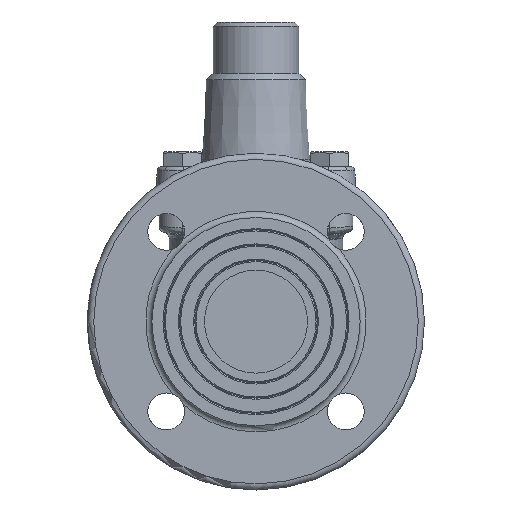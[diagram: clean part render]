
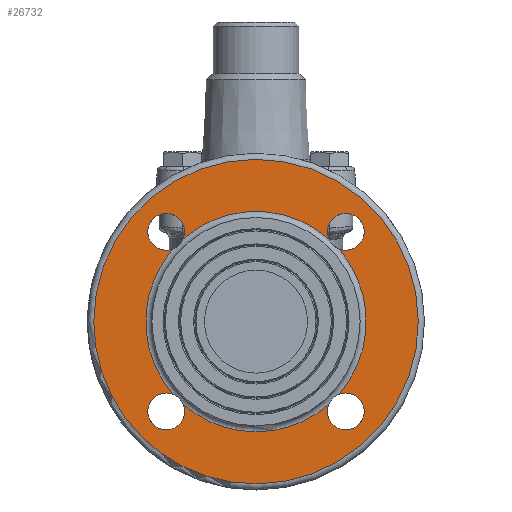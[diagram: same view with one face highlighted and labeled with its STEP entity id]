
A CAD part, left-side view. The second image highlights one B-rep face of the part: STEP entity #26732.
In plain terms, the highlighted planar face has unit normal (-1, 0, 0).
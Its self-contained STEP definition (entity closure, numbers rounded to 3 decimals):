
#14297=CARTESIAN_POINT('',(-112.,-0.,-54.));
#14298=VERTEX_POINT('',#14297);
#14309=CARTESIAN_POINT('',(-112.,-35.618,-40.588));
#14310=VERTEX_POINT('',#14309);
#14311=CARTESIAN_POINT('',(-112.,0.,0.));
#14312=DIRECTION('',(1.,0.,0.));
#14313=DIRECTION('',(0.,1.,-0.));
#14314=AXIS2_PLACEMENT_3D('',#14311,#14312,#14313);
#14315=CIRCLE('',#14314,54.);
#14316=EDGE_CURVE('',#14310,#14298,#14315,.T.);
#14318=CARTESIAN_POINT('',(-112.,-40.588,-35.618));
#14319=VERTEX_POINT('',#14318);
#14342=CARTESIAN_POINT('',(-112.,-40.588,35.618));
#14343=VERTEX_POINT('',#14342);
#14344=CARTESIAN_POINT('',(-112.,0.,0.));
#14345=DIRECTION('',(1.,0.,0.));
#14346=DIRECTION('',(0.,1.,-0.));
#14347=AXIS2_PLACEMENT_3D('',#14344,#14345,#14346);
#14348=CIRCLE('',#14347,54.);
#14349=EDGE_CURVE('',#14343,#14319,#14348,.T.);
#14351=CARTESIAN_POINT('',(-112.,-35.618,40.588));
#14352=VERTEX_POINT('',#14351);
#14375=CARTESIAN_POINT('',(-112.,35.618,40.588));
#14376=VERTEX_POINT('',#14375);
#14377=CARTESIAN_POINT('',(-112.,0.,0.));
#14378=DIRECTION('',(1.,0.,0.));
#14379=DIRECTION('',(0.,1.,-0.));
#14380=AXIS2_PLACEMENT_3D('',#14377,#14378,#14379);
#14381=CIRCLE('',#14380,54.);
#14382=EDGE_CURVE('',#14376,#14352,#14381,.T.);
#14384=CARTESIAN_POINT('',(-112.,40.588,35.618));
#14385=VERTEX_POINT('',#14384);
#14408=CARTESIAN_POINT('',(-112.,40.588,-35.618));
#14409=VERTEX_POINT('',#14408);
#14410=CARTESIAN_POINT('',(-112.,0.,0.));
#14411=DIRECTION('',(-1.,-0.,-0.));
#14412=DIRECTION('',(0.,1.,-0.));
#14413=AXIS2_PLACEMENT_3D('',#14410,#14411,#14412);
#14414=CIRCLE('',#14413,54.);
#14415=EDGE_CURVE('',#14385,#14409,#14414,.T.);
#14417=CARTESIAN_POINT('',(-112.,35.618,-40.588));
#14418=VERTEX_POINT('',#14417);
#14441=CARTESIAN_POINT('',(-112.,0.,0.));
#14442=DIRECTION('',(1.,0.,0.));
#14443=DIRECTION('',(0.,1.,-0.));
#14444=AXIS2_PLACEMENT_3D('',#14441,#14442,#14443);
#14445=CIRCLE('',#14444,54.);
#14446=EDGE_CURVE('',#14298,#14418,#14445,.T.);
#14458=CARTESIAN_POINT('',(-112.,-44.,-34.95));
#14459=VERTEX_POINT('',#14458);
#14483=CARTESIAN_POINT('',(-112.,-44.,-44.));
#14484=DIRECTION('',(1.,0.,0.));
#14485=DIRECTION('',(0.,1.,-0.));
#14486=AXIS2_PLACEMENT_3D('',#14483,#14484,#14485);
#14487=CIRCLE('',#14486,9.05);
#14488=EDGE_CURVE('',#14319,#14459,#14487,.T.);
#14491=CARTESIAN_POINT('',(-112.,-44.,-44.));
#14492=DIRECTION('',(1.,0.,0.));
#14493=DIRECTION('',(0.,1.,-0.));
#14494=AXIS2_PLACEMENT_3D('',#14491,#14492,#14493);
#14495=CIRCLE('',#14494,9.05);
#14496=EDGE_CURVE('',#14459,#14310,#14495,.T.);
#26634=CARTESIAN_POINT('',(-112.,-0.513,-79.498));
#26635=VERTEX_POINT('',#26634);
#26643=CARTESIAN_POINT('',(-112.,79.5,-0.));
#26644=VERTEX_POINT('',#26643);
#26645=CARTESIAN_POINT('',(-112.,0.,0.));
#26646=DIRECTION('',(1.,0.,0.));
#26647=DIRECTION('',(0.,1.,-0.));
#26648=AXIS2_PLACEMENT_3D('',#26645,#26646,#26647);
#26649=CIRCLE('',#26648,79.5);
#26650=EDGE_CURVE('',#26635,#26644,#26649,.T.);
#26652=CARTESIAN_POINT('',(-112.,0.,0.));
#26653=DIRECTION('',(1.,0.,0.));
#26654=DIRECTION('',(0.,1.,-0.));
#26655=AXIS2_PLACEMENT_3D('',#26652,#26653,#26654);
#26656=CIRCLE('',#26655,79.5);
#26657=EDGE_CURVE('',#26644,#26635,#26656,.T.);
#26666=CARTESIAN_POINT('',(-112.,0.,0.));
#26667=DIRECTION('',(1.,0.,0.));
#26668=DIRECTION('',(0.,-0.,-1.));
#26669=AXIS2_PLACEMENT_3D('',#26666,#26667,#26668);
#26670=PLANE('',#26669);
#26671=ORIENTED_EDGE('',*,*,#26650,.F.);
#26672=ORIENTED_EDGE('',*,*,#26657,.F.);
#26673=EDGE_LOOP('',(#26671,#26672));
#26674=FACE_BOUND('',#26673,.T.);
#26675=ORIENTED_EDGE('',*,*,#14488,.T.);
#26676=ORIENTED_EDGE('',*,*,#14496,.T.);
#26677=ORIENTED_EDGE('',*,*,#14316,.T.);
#26678=ORIENTED_EDGE('',*,*,#14446,.T.);
#26679=CARTESIAN_POINT('',(-112.,44.,-34.95));
#26680=VERTEX_POINT('',#26679);
#26681=CARTESIAN_POINT('',(-112.,44.,-44.));
#26682=DIRECTION('',(1.,0.,0.));
#26683=DIRECTION('',(0.,1.,-0.));
#26684=AXIS2_PLACEMENT_3D('',#26681,#26682,#26683);
#26685=CIRCLE('',#26684,9.05);
#26686=EDGE_CURVE('',#14418,#26680,#26685,.T.);
#26687=ORIENTED_EDGE('',*,*,#26686,.T.);
#26688=CARTESIAN_POINT('',(-112.,44.,-44.));
#26689=DIRECTION('',(1.,0.,0.));
#26690=DIRECTION('',(0.,1.,-0.));
#26691=AXIS2_PLACEMENT_3D('',#26688,#26689,#26690);
#26692=CIRCLE('',#26691,9.05);
#26693=EDGE_CURVE('',#26680,#14409,#26692,.T.);
#26694=ORIENTED_EDGE('',*,*,#26693,.T.);
#26695=ORIENTED_EDGE('',*,*,#14415,.F.);
#26696=CARTESIAN_POINT('',(-112.,44.,53.05));
#26697=VERTEX_POINT('',#26696);
#26698=CARTESIAN_POINT('',(-112.,44.,44.));
#26699=DIRECTION('',(1.,0.,0.));
#26700=DIRECTION('',(0.,1.,-0.));
#26701=AXIS2_PLACEMENT_3D('',#26698,#26699,#26700);
#26702=CIRCLE('',#26701,9.05);
#26703=EDGE_CURVE('',#14385,#26697,#26702,.T.);
#26704=ORIENTED_EDGE('',*,*,#26703,.T.);
#26705=CARTESIAN_POINT('',(-112.,44.,44.));
#26706=DIRECTION('',(1.,0.,0.));
#26707=DIRECTION('',(0.,1.,-0.));
#26708=AXIS2_PLACEMENT_3D('',#26705,#26706,#26707);
#26709=CIRCLE('',#26708,9.05);
#26710=EDGE_CURVE('',#26697,#14376,#26709,.T.);
#26711=ORIENTED_EDGE('',*,*,#26710,.T.);
#26712=ORIENTED_EDGE('',*,*,#14382,.T.);
#26713=CARTESIAN_POINT('',(-112.,-44.,53.05));
#26714=VERTEX_POINT('',#26713);
#26715=CARTESIAN_POINT('',(-112.,-44.,44.));
#26716=DIRECTION('',(1.,0.,0.));
#26717=DIRECTION('',(0.,1.,-0.));
#26718=AXIS2_PLACEMENT_3D('',#26715,#26716,#26717);
#26719=CIRCLE('',#26718,9.05);
#26720=EDGE_CURVE('',#14352,#26714,#26719,.T.);
#26721=ORIENTED_EDGE('',*,*,#26720,.T.);
#26722=CARTESIAN_POINT('',(-112.,-44.,44.));
#26723=DIRECTION('',(1.,0.,0.));
#26724=DIRECTION('',(0.,1.,-0.));
#26725=AXIS2_PLACEMENT_3D('',#26722,#26723,#26724);
#26726=CIRCLE('',#26725,9.05);
#26727=EDGE_CURVE('',#26714,#14343,#26726,.T.);
#26728=ORIENTED_EDGE('',*,*,#26727,.T.);
#26729=ORIENTED_EDGE('',*,*,#14349,.T.);
#26730=EDGE_LOOP('',(#26675,#26676,#26677,#26678,#26687,#26694,#26695,#26704,#26711,#26712,#26721,#26728,#26729));
#26731=FACE_BOUND('',#26730,.T.);
#26732=ADVANCED_FACE('',(#26674,#26731),#26670,.F.);
